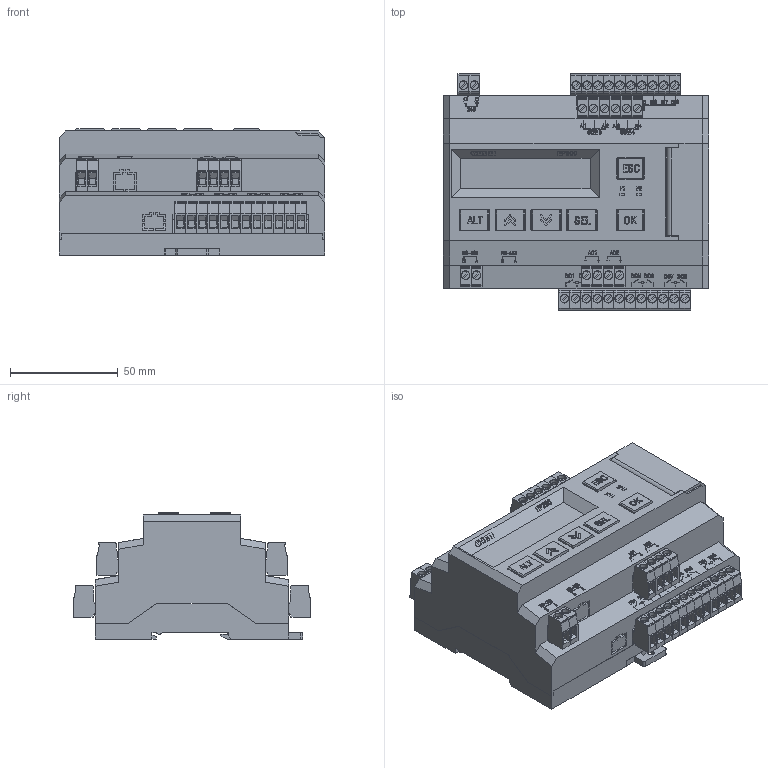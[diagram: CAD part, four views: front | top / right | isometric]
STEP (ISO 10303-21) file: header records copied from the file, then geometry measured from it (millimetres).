
FILE_DESCRIPTION (( 'STEP AP214' ), '1' );
FILE_NAME ('3D 沓麧錪 玿200.STEP', '2015-10-12T06:52:10', ( '' ), ( '' ), 'SwSTEP 2.0', 'SolidWorks 2013', '' );
FILE_SCHEMA (( 'AUTOMOTIVE_DESIGN' ));
Length unit declared in the file: millimetre
Products named in the file (11): 3D 沓麧錪 玿200; 抔樦憵 2-5,08; 抔樦憵 5,08; Ðàçúåì øòåêåðíûé 2-5.08; Ðàçúåì øòåêåðíûé íà ïëàòó 5.08; 婰膲僗闉 玿200; Êðûøêà; miniUSB; 扱闀膱 玿200; Êîðïóñ ÏËÊ200_îñí; Êîðïóñ ÏËÊ200_âåðõ
Assembly tree (46 placements, depth 3):
  3D 沓麧錪 玿200
    Êîðïóñ ÏËÊ200_âåðõ
    Êîðïóñ ÏËÊ200_îñí
    扱闀膱 玿200
    miniUSB
    Êðûøêà
    婰膲僗闉 玿200
    Ðàçúåì øòåêåðíûé 2-5.08  x18
      Ðàçúåì øòåêåðíûé íà ïëàòó 5.08
    抔樦憵 2-5,08  x18
      抔樦憵 5,08
Bounding box: 123 x 109.7 x 58.5 mm (x, y, z)
Volume: 214676.1 mm3; surface area: 142555.5 mm2
Topology: 79 solids, 79 shells, 7377 faces, 19398 edges, 12772 vertices
Faces by surface type: plane 4843, bspline 1630, cylinder 868, cone 36
Entity records: 168416 total; most frequent: CARTESIAN_POINT 44105, ORIENTED_EDGE 21436, DIRECTION 12515, EDGE_CURVE 10718, VERTEX_POINT 7137, VECTOR 6897, LINE 6897, EDGE_LOOP 4251
